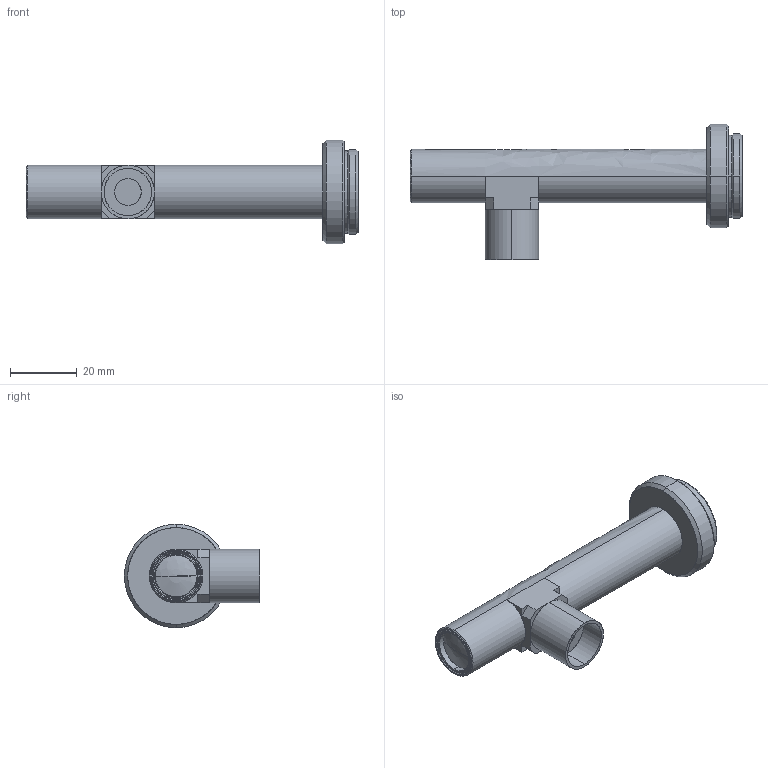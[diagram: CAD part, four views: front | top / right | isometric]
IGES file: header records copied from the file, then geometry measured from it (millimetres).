
Start section: SolidWorks IGES file using analytic representation for surfaces
Global section: file name: C:\Documents and Settings\Tsuji_vst\My Documents\図面\_3D\SOG\VS-TC1-65CO-16.IGS,1; native system: 5HSolidWorks 2012; preprocessor: SolidWorks 2012; author: Tsuji_vst; date: 130507.100443; units: millimetre
Bounding box: 99.4 x 40.5 x 31 mm (x, y, z)
Surface area: 8891.1 mm2 (no closed solid volume)
Topology: 0 solids, 0 shells, 80 faces, 1100 edges, 1099 vertices
Faces by surface type: revolution 53, bspline 27
